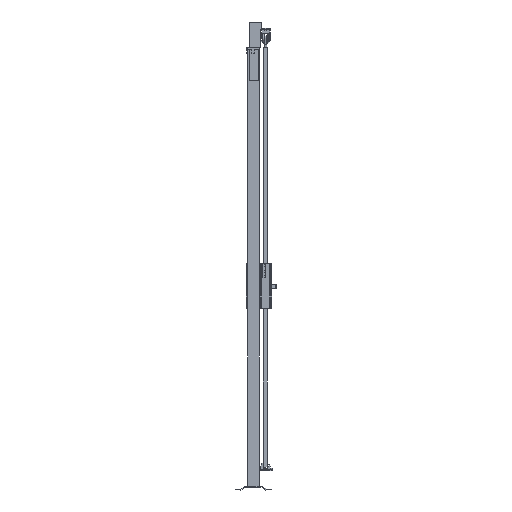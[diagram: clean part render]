
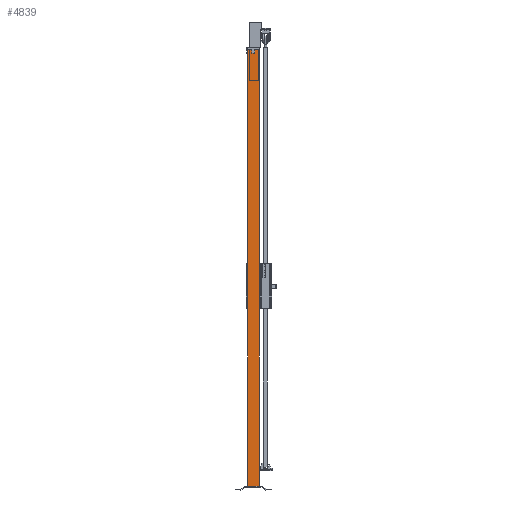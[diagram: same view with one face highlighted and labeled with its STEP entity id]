
A CAD part, left-side view. The second image highlights one B-rep face of the part: STEP entity #4839.
In plain terms, the highlighted planar face has unit normal (-1, 0, 0).
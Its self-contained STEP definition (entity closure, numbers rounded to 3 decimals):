
#490=FACE_OUTER_BOUND('',#837,.T.);
#837=EDGE_LOOP('',(#3107,#3108,#3109,#3110));
#1241=VERTEX_POINT('',#10122);
#1242=VERTEX_POINT('',#10124);
#1245=VERTEX_POINT('',#10131);
#1246=VERTEX_POINT('',#10133);
#1967=EDGE_CURVE('',#1241,#1242,#5616,.T.);
#1971=EDGE_CURVE('',#1245,#1246,#5620,.T.);
#1973=EDGE_CURVE('',#1242,#1245,#5622,.T.);
#1975=EDGE_CURVE('',#1241,#1246,#5624,.T.);
#3107=ORIENTED_EDGE('',*,*,#1975,.T.);
#3108=ORIENTED_EDGE('',*,*,#1971,.F.);
#3109=ORIENTED_EDGE('',*,*,#1973,.F.);
#3110=ORIENTED_EDGE('',*,*,#1967,.F.);
#4529=PLANE('',#7200);
#4839=ADVANCED_FACE('',(#490),#4529,.F.);
#5616=LINE('',#10125,#6480);
#5620=LINE('',#10134,#6484);
#5622=LINE('',#10137,#6486);
#5624=LINE('',#10140,#6488);
#6480=VECTOR('',#8054,1.);
#6484=VECTOR('',#8060,1.);
#6486=VECTOR('',#8064,1.);
#6488=VECTOR('',#8068,1.);
#7200=AXIS2_PLACEMENT_3D('',#10139,#8066,#8067);
#8054=DIRECTION('',(0.,-1.,0.));
#8060=DIRECTION('',(0.,1.,0.));
#8064=DIRECTION('',(0.,0.,-1.));
#8066=DIRECTION('center_axis',(1.,0.,0.));
#8067=DIRECTION('ref_axis',(0.,0.,-1.));
#8068=DIRECTION('',(0.,0.,-1.));
#10122=CARTESIAN_POINT('',(-30.,30.,2320.));
#10124=CARTESIAN_POINT('',(-30.,-30.,2320.));
#10125=CARTESIAN_POINT('',(-30.,0.,2320.));
#10131=CARTESIAN_POINT('',(-30.,-30.,20.));
#10133=CARTESIAN_POINT('',(-30.,30.,20.));
#10134=CARTESIAN_POINT('',(-30.,0.,20.));
#10137=CARTESIAN_POINT('',(-30.,-30.,1170.));
#10139=CARTESIAN_POINT('Origin',(-30.,0.,
1170.));
#10140=CARTESIAN_POINT('',(-30.,30.,1170.));
